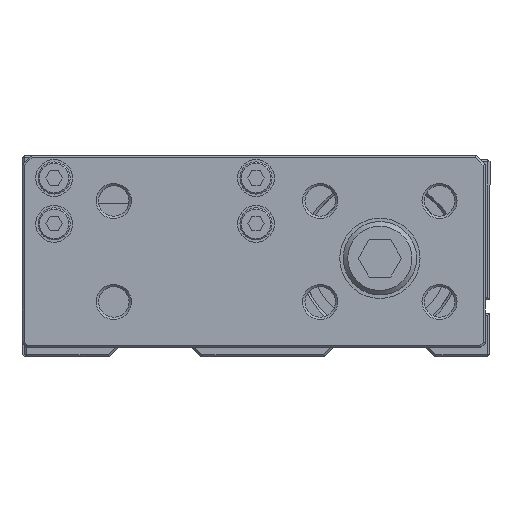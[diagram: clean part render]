
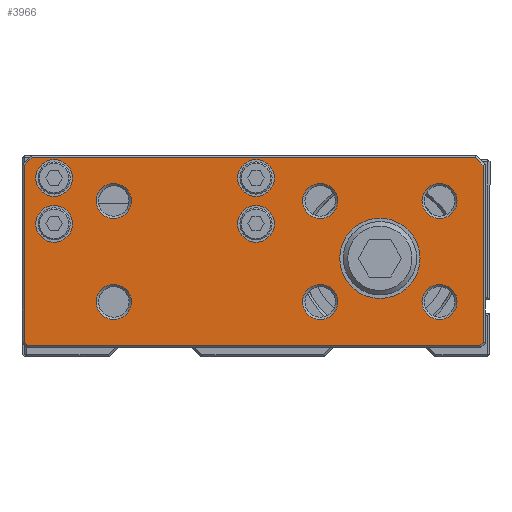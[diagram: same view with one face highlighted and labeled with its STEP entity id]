
A CAD part, front view. The second image highlights one B-rep face of the part: STEP entity #3966.
In plain terms, the highlighted planar face has unit normal (0, -1, 0).
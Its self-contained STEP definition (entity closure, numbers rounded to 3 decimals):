
#3770=CARTESIAN_POINT('',(-9.176,-17.8,12.5));
#3771=VERTEX_POINT('',#3770);
#3772=CARTESIAN_POINT('',(-13.,-17.8,12.5));
#3773=DIRECTION('',(0.0,-1.0,0.0));
#3774=DIRECTION('',(-1.0,0.0,0.0));
#3775=AXIS2_PLACEMENT_3D('',#3772,#3773,#3774);
#3776=CIRCLE('',#3775,3.824);
#3777=EDGE_CURVE('',#3771,#3771,#3776,.T.);
#3782=CARTESIAN_POINT('',(-78.0,-17.8,22.5));
#3783=DIRECTION('',(0.0,-1.0,0.0));
#3784=DIRECTION('',(0.0,0.0,-1.0));
#3785=AXIS2_PLACEMENT_3D('',#3782,#3783,#3784);
#3786=PLANE('',#3785);
#3787=CARTESIAN_POINT('',(22.5,-17.8,20.293));
#3788=VERTEX_POINT('',#3787);
#3789=CARTESIAN_POINT('',(22.5,-17.8,-18.293));
#3790=VERTEX_POINT('',#3789);
#3791=CARTESIAN_POINT('',(22.5,-17.8,20.293));
#3792=DIRECTION('',(0.0,0.0,-1.0));
#3793=VECTOR('',#3792,38.586);
#3794=LINE('',#3791,#3793);
#3795=EDGE_CURVE('',#3788,#3790,#3794,.T.);
#3796=ORIENTED_EDGE('',*,*,#3795,.F.);
#3797=CARTESIAN_POINT('',(20.793,-17.8,22.0));
#3798=VERTEX_POINT('',#3797);
#3799=CARTESIAN_POINT('',(20.793,-17.8,22.0));
#3800=DIRECTION('',(0.707,0.0,-0.707));
#3801=VECTOR('',#3800,2.414);
#3802=LINE('',#3799,#3801);
#3803=EDGE_CURVE('',#3798,#3788,#3802,.T.);
#3804=ORIENTED_EDGE('',*,*,#3803,.F.);
#3805=CARTESIAN_POINT('',(-75.793,-17.8,22.0));
#3806=VERTEX_POINT('',#3805);
#3807=CARTESIAN_POINT('',(-75.793,-17.8,22.0));
#3808=DIRECTION('',(1.0,0.0,0.0));
#3809=VECTOR('',#3808,96.586);
#3810=LINE('',#3807,#3809);
#3811=EDGE_CURVE('',#3806,#3798,#3810,.T.);
#3812=ORIENTED_EDGE('',*,*,#3811,.F.);
#3813=CARTESIAN_POINT('',(-77.5,-17.8,20.293));
#3814=VERTEX_POINT('',#3813);
#3815=CARTESIAN_POINT('',(-77.5,-17.8,20.293));
#3816=DIRECTION('',(0.707,0.0,0.707));
#3817=VECTOR('',#3816,2.414);
#3818=LINE('',#3815,#3817);
#3819=EDGE_CURVE('',#3814,#3806,#3818,.T.);
#3820=ORIENTED_EDGE('',*,*,#3819,.F.);
#3821=CARTESIAN_POINT('',(-77.5,-17.8,-18.293));
#3822=VERTEX_POINT('',#3821);
#3823=CARTESIAN_POINT('',(-77.5,-17.8,-18.293));
#3824=DIRECTION('',(0.0,0.0,1.0));
#3825=VECTOR('',#3824,38.586);
#3826=LINE('',#3823,#3825);
#3827=EDGE_CURVE('',#3822,#3814,#3826,.T.);
#3828=ORIENTED_EDGE('',*,*,#3827,.F.);
#3829=CARTESIAN_POINT('',(-76.793,-17.8,-19.));
#3830=VERTEX_POINT('',#3829);
#3831=CARTESIAN_POINT('',(-76.793,-17.8,-19.));
#3832=DIRECTION('',(-0.707,0.0,0.707));
#3833=VECTOR('',#3832,1.);
#3834=LINE('',#3831,#3833);
#3835=EDGE_CURVE('',#3830,#3822,#3834,.T.);
#3836=ORIENTED_EDGE('',*,*,#3835,.F.);
#3837=CARTESIAN_POINT('',(21.793,-17.8,-19.));
#3838=VERTEX_POINT('',#3837);
#3839=CARTESIAN_POINT('',(21.793,-17.8,-19.));
#3840=DIRECTION('',(-1.0,0.0,0.0));
#3841=VECTOR('',#3840,98.586);
#3842=LINE('',#3839,#3841);
#3843=EDGE_CURVE('',#3838,#3830,#3842,.T.);
#3844=ORIENTED_EDGE('',*,*,#3843,.F.);
#3845=CARTESIAN_POINT('',(22.5,-17.8,-18.293));
#3846=DIRECTION('',(-0.707,0.0,-0.707));
#3847=VECTOR('',#3846,1.);
#3848=LINE('',#3845,#3847);
#3849=EDGE_CURVE('',#3790,#3838,#3848,.T.);
#3850=ORIENTED_EDGE('',*,*,#3849,.F.);
#3851=EDGE_LOOP('',(#3796,#3804,#3812,#3820,#3828,#3836,#3844,#3850));
#3852=FACE_OUTER_BOUND('',#3851,.T.);
#3853=CARTESIAN_POINT('',(-9.176,-17.8,-9.5));
#3854=VERTEX_POINT('',#3853);
#3855=CARTESIAN_POINT('',(-13.,-17.8,-9.5));
#3856=DIRECTION('',(0.0,-1.0,0.0));
#3857=DIRECTION('',(-1.0,0.0,0.0));
#3858=AXIS2_PLACEMENT_3D('',#3855,#3856,#3857);
#3859=CIRCLE('',#3858,3.824);
#3860=EDGE_CURVE('',#3854,#3854,#3859,.T.);
#3861=ORIENTED_EDGE('',*,*,#3860,.F.);
#3862=EDGE_LOOP('',(#3861));
#3863=FACE_BOUND('',#3862,.T.);
#3864=CARTESIAN_POINT('',(16.824,-17.8,-9.5));
#3865=VERTEX_POINT('',#3864);
#3866=CARTESIAN_POINT('',(13.,-17.8,-9.5));
#3867=DIRECTION('',(0.0,-1.0,0.0));
#3868=DIRECTION('',(-1.0,0.0,0.0));
#3869=AXIS2_PLACEMENT_3D('',#3866,#3867,#3868);
#3870=CIRCLE('',#3869,3.824);
#3871=EDGE_CURVE('',#3865,#3865,#3870,.T.);
#3872=ORIENTED_EDGE('',*,*,#3871,.F.);
#3873=EDGE_LOOP('',(#3872));
#3874=FACE_BOUND('',#3873,.T.);
#3875=CARTESIAN_POINT('',(16.824,-17.8,12.5));
#3876=VERTEX_POINT('',#3875);
#3877=CARTESIAN_POINT('',(13.,-17.8,12.5));
#3878=DIRECTION('',(0.0,-1.0,0.0));
#3879=DIRECTION('',(-1.0,0.0,0.0));
#3880=AXIS2_PLACEMENT_3D('',#3877,#3878,#3879);
#3881=CIRCLE('',#3880,3.824);
#3882=EDGE_CURVE('',#3876,#3876,#3881,.T.);
#3883=ORIENTED_EDGE('',*,*,#3882,.F.);
#3884=EDGE_LOOP('',(#3883));
#3885=FACE_BOUND('',#3884,.T.);
#3886=CARTESIAN_POINT('',(8.75,-17.8,0.0));
#3887=VERTEX_POINT('',#3886);
#3888=CARTESIAN_POINT('',(0.,-17.8,0.0));
#3889=DIRECTION('',(0.0,1.0,0.0));
#3890=DIRECTION('',(1.0,0.0,0.0));
#3891=AXIS2_PLACEMENT_3D('',#3888,#3889,#3890);
#3892=CIRCLE('',#3891,8.75);
#3893=EDGE_CURVE('',#3887,#3887,#3892,.T.);
#3894=ORIENTED_EDGE('',*,*,#3893,.T.);
#3895=EDGE_LOOP('',(#3894));
#3896=FACE_BOUND('',#3895,.T.);
#3897=CARTESIAN_POINT('',(-67.0,-17.8,17.5));
#3898=VERTEX_POINT('',#3897);
#3899=CARTESIAN_POINT('',(-71.0,-17.8,17.5));
#3900=DIRECTION('',(0.0,1.0,0.0));
#3901=DIRECTION('',(1.0,0.0,0.0));
#3902=AXIS2_PLACEMENT_3D('',#3899,#3900,#3901);
#3903=CIRCLE('',#3902,4.0);
#3904=EDGE_CURVE('',#3898,#3898,#3903,.T.);
#3905=ORIENTED_EDGE('',*,*,#3904,.T.);
#3906=EDGE_LOOP('',(#3905));
#3907=FACE_BOUND('',#3906,.T.);
#3908=CARTESIAN_POINT('',(-67.0,-17.8,7.5));
#3909=VERTEX_POINT('',#3908);
#3910=CARTESIAN_POINT('',(-71.0,-17.8,7.5));
#3911=DIRECTION('',(0.0,1.0,0.0));
#3912=DIRECTION('',(1.0,0.0,0.0));
#3913=AXIS2_PLACEMENT_3D('',#3910,#3911,#3912);
#3914=CIRCLE('',#3913,4.0);
#3915=EDGE_CURVE('',#3909,#3909,#3914,.T.);
#3916=ORIENTED_EDGE('',*,*,#3915,.T.);
#3917=EDGE_LOOP('',(#3916));
#3918=FACE_BOUND('',#3917,.T.);
#3919=CARTESIAN_POINT('',(-23.,-17.8,17.5));
#3920=VERTEX_POINT('',#3919);
#3921=CARTESIAN_POINT('',(-27.0,-17.8,17.5));
#3922=DIRECTION('',(0.0,1.0,0.0));
#3923=DIRECTION('',(1.0,0.0,0.0));
#3924=AXIS2_PLACEMENT_3D('',#3921,#3922,#3923);
#3925=CIRCLE('',#3924,4.0);
#3926=EDGE_CURVE('',#3920,#3920,#3925,.T.);
#3927=ORIENTED_EDGE('',*,*,#3926,.T.);
#3928=EDGE_LOOP('',(#3927));
#3929=FACE_BOUND('',#3928,.T.);
#3930=CARTESIAN_POINT('',(-23.,-17.8,7.5));
#3931=VERTEX_POINT('',#3930);
#3932=CARTESIAN_POINT('',(-27.0,-17.8,7.5));
#3933=DIRECTION('',(0.0,1.0,0.0));
#3934=DIRECTION('',(1.0,0.0,0.0));
#3935=AXIS2_PLACEMENT_3D('',#3932,#3933,#3934);
#3936=CIRCLE('',#3935,4.0);
#3937=EDGE_CURVE('',#3931,#3931,#3936,.T.);
#3938=ORIENTED_EDGE('',*,*,#3937,.T.);
#3939=EDGE_LOOP('',(#3938));
#3940=FACE_BOUND('',#3939,.T.);
#3941=CARTESIAN_POINT('',(-54.177,-17.8,-9.5));
#3942=VERTEX_POINT('',#3941);
#3943=CARTESIAN_POINT('',(-58.0,-17.8,-9.5));
#3944=DIRECTION('',(0.0,-1.0,0.0));
#3945=DIRECTION('',(-1.0,0.0,0.0));
#3946=AXIS2_PLACEMENT_3D('',#3943,#3944,#3945);
#3947=CIRCLE('',#3946,3.823);
#3948=EDGE_CURVE('',#3942,#3942,#3947,.T.);
#3949=ORIENTED_EDGE('',*,*,#3948,.F.);
#3950=EDGE_LOOP('',(#3949));
#3951=FACE_BOUND('',#3950,.T.);
#3952=CARTESIAN_POINT('',(-54.177,-17.8,12.5));
#3953=VERTEX_POINT('',#3952);
#3954=CARTESIAN_POINT('',(-58.,-17.8,12.5));
#3955=DIRECTION('',(0.0,-1.0,0.0));
#3956=DIRECTION('',(-1.0,0.0,0.0));
#3957=AXIS2_PLACEMENT_3D('',#3954,#3955,#3956);
#3958=CIRCLE('',#3957,3.823);
#3959=EDGE_CURVE('',#3953,#3953,#3958,.T.);
#3960=ORIENTED_EDGE('',*,*,#3959,.F.);
#3961=EDGE_LOOP('',(#3960));
#3962=FACE_BOUND('',#3961,.T.);
#3963=ORIENTED_EDGE('',*,*,#3777,.F.);
#3964=EDGE_LOOP('',(#3963));
#3965=FACE_BOUND('',#3964,.T.);
#3966=ADVANCED_FACE('',(#3852,#3863,#3874,#3885,#3896,#3907,#3918,#3929,#3940,#3951,#3962,#3965),#3786,.T.);
